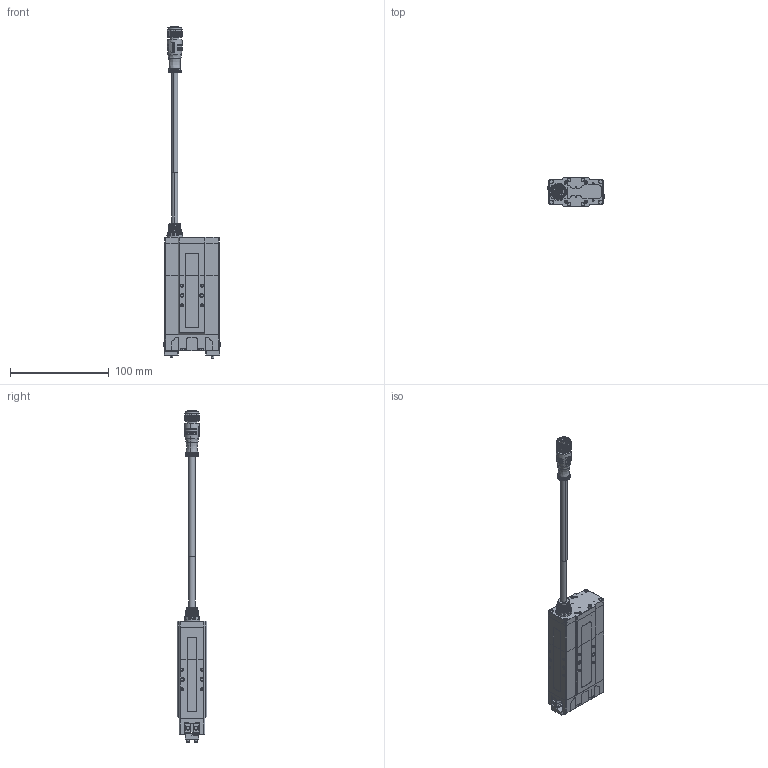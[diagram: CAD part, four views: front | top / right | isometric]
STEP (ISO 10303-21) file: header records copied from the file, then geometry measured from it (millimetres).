
FILE_DESCRIPTION (( 'STEP AP214' ), '1' );
FILE_NAME ('PGE-5-26-W-B.STEP', '2023-07-20T10:54:08', ( '' ), ( '' ), 'SwSTEP 2.0', 'SolidWorks 2020', '' );
FILE_SCHEMA (( 'AUTOMOTIVE_DESIGN' ));
Length unit declared in the file: millimetre
Products named in the file (3): 忒硌價釱.STEP; PGE-5-26-W-B; 湍惕掅菁堤褲
Assembly tree (3 placements, depth 2):
  PGE-5-26-W-B
    湍惕掅菁堤褲
    忒硌價釱.STEP  x2
Bounding box: 58.4 x 30 x 337 mm (x, y, z)
Surface area: 53243.4 mm2 (no closed solid volume)
Topology: 0 solids, 21 shells, 1953 faces, 4926 edges, 3092 vertices
Faces by surface type: plane 838, cylinder 474, cone 367, bspline 243, torus 30, sphere 1
Full cylindrical faces by diameter (mm): 11.1 x3
Entity records: 89911 total; most frequent: CARTESIAN_POINT 28803, ORIENTED_EDGE 8839, DIRECTION 7845, EDGE_CURVE 4466, VERTEX_POINT 2833, AXIS2_PLACEMENT_3D 2816, VECTOR 2213, LINE 2213
